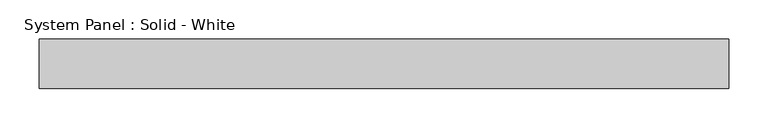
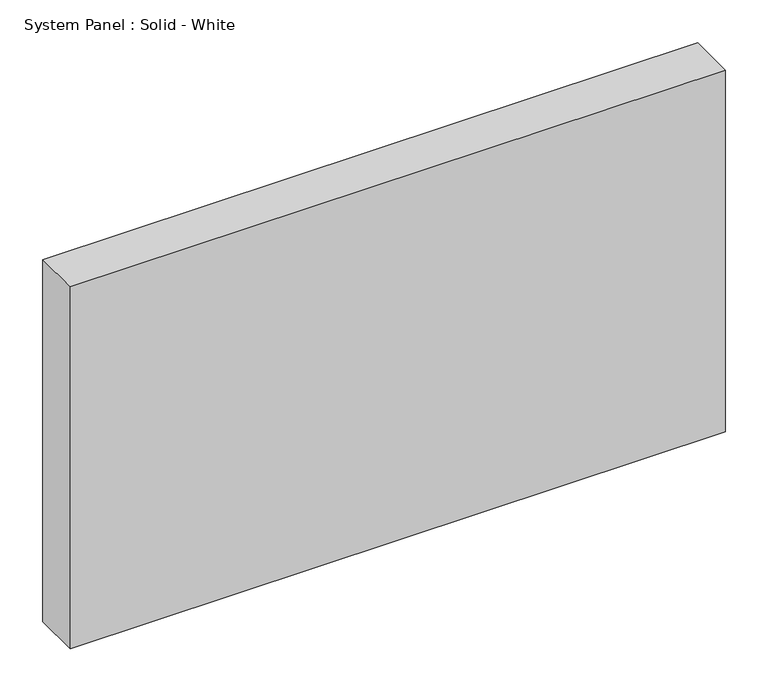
"""IFC4 building model written with IfcOpenShell, lengths in millimetres: plate geometry, System Panel : Solid - White."""

from ifc_helpers import new_model, si_unit, origin, origin_with_axes, place, context, project, spatial, polyline, outline, extrude, source, transform, mapped, element, save


def system_panel_solid_white_b9359cd8(model_context):
    return source(origin(), model_context, "Body", "SweptSolid", [
        extrude(outline(polyline([(440.1829802, -19.05), (-440.1829802, -19.05), (-440.1829802, 44.45), (440.1829802, 44.45), (440.1829802, -19.05)])), origin_with_axes(), (0.0, 0.0, 1.0), 514.35),
    ])


if __name__ == "__main__":
    model = new_model("IFC4")
    model_context = context("Model", 3, world=origin())
    ifc_project = project(units=[si_unit("LENGTHUNIT", "METRE", prefix="MILLI")], contexts=[model_context])
    site = spatial("IfcSite", under=ifc_project)
    building = spatial("IfcBuilding", under=site)
    placement = place(None, origin())
    system_panel_solid_white_shape = system_panel_solid_white_b9359cd8(model_context)
    element("IfcPlate", 1, ObjectType="System Panel : Solid - White", at=placement, inside=building, context=model_context, shape_type="MappedRepresentation", body=[
        mapped(system_panel_solid_white_shape, transform((0.0, 0.0, 0.0), x_axis=(1.0, 0.0, 0.0), y_axis=(0.0, 1.0, 0.0), z_axis=(0.0, 0.0, 1.0))),
    ])
    save(model, "model.ifc")
